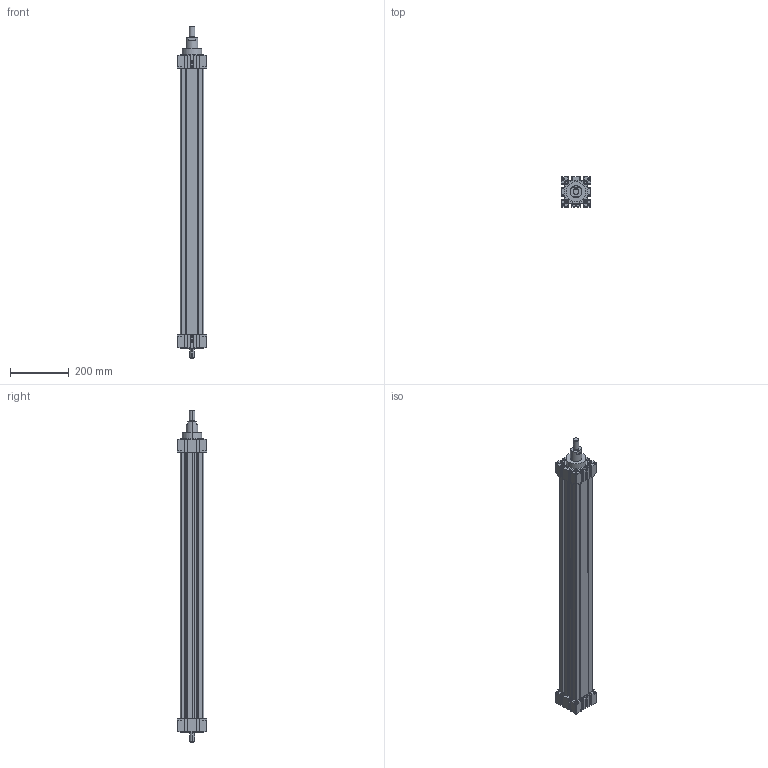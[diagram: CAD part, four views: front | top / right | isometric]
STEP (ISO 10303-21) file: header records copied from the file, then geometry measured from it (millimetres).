
FILE_DESCRIPTION (( 'STEP AP214' ), '1' );
FILE_NAME ('EHT(K)80.STEP', '2022-06-28T09:07:14', ( '' ), ( '' ), 'SwSTEP 2.0', 'SolidWorks 2020', '' );
FILE_SCHEMA (( 'AUTOMOTIVE_DESIGN' ));
Length unit declared in the file: millimetre
Products named in the file (5): bearing block 01^EHT(K)80_shaft; EHT(K)80; profile^EHT(K)80; bearing block 02^EHT(K)80_standard; piston rod^EHT(K)80_eingefahren (l= 100mm)
Assembly tree (4 placements, depth 2):
  EHT(K)80
    profile^EHT(K)80
    piston rod^EHT(K)80_eingefahren (l= 100mm)
    bearing block 01^EHT(K)80_shaft
    bearing block 02^EHT(K)80_standard
Bounding box: 102 x 102 x 1135 mm (x, y, z)
Volume: 5250509.6 mm3; surface area: 838162 mm2
Topology: 4 solids, 4 shells, 728 faces, 2006 edges, 1323 vertices
Faces by surface type: plane 503, cylinder 188, cone 35, torus 2
Entity records: 23754 total; most frequent: CARTESIAN_POINT 4150, ORIENTED_EDGE 4012, DIRECTION 3901, EDGE_CURVE 2006, VECTOR 1561, LINE 1561, VERTEX_POINT 1323, AXIS2_PLACEMENT_3D 1170
